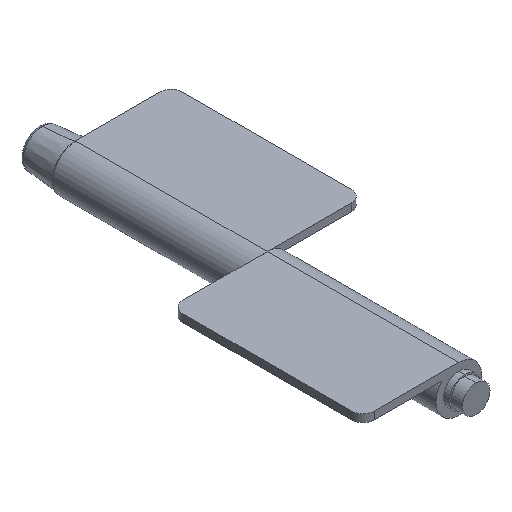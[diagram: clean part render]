
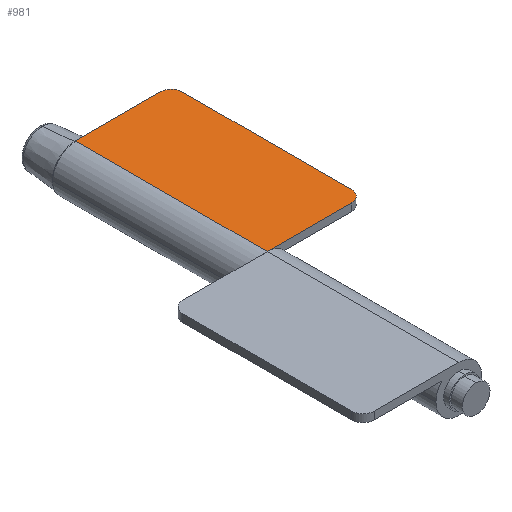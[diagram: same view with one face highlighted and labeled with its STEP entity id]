
A CAD part, isometric view. The second image highlights one B-rep face of the part: STEP entity #981.
In plain terms, the highlighted planar face has unit normal (0, 0, 1) as drawn and (0, -1, 0) by its records, which use the part's own axes.
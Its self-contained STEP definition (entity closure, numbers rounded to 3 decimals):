
#7 = VECTOR ( 'NONE', #20, 1000. ) ;
#20 = DIRECTION ( 'NONE',  ( 0., 0., -1. ) ) ;
#45 = CARTESIAN_POINT ( 'NONE',  ( 0., 0., 25. ) ) ;
#50 = AXIS2_PLACEMENT_3D ( 'NONE', #306, #438, #129 ) ;
#70 = PLANE ( 'NONE',  #911 ) ;
#86 = LINE ( 'NONE', #660, #7 ) ;
#122 = CARTESIAN_POINT ( 'NONE',  ( 22., 0., 25. ) ) ;
#129 = DIRECTION ( 'NONE',  ( 0., 0., 1. ) ) ;
#181 = DIRECTION ( 'NONE',  ( 0., -1., 0. ) ) ;
#195 = DIRECTION ( 'NONE',  ( 0., 1., 0. ) ) ;
#213 = AXIS2_PLACEMENT_3D ( 'NONE', #262, #181, #724 ) ;
#235 = VERTEX_POINT ( 'NONE', #417 ) ;
#247 = ORIENTED_EDGE ( 'NONE', *, *, #495, .T. ) ;
#251 = VECTOR ( 'NONE', #359, 1000. ) ;
#262 = CARTESIAN_POINT ( 'NONE',  ( 22., 0., -22. ) ) ;
#281 = LINE ( 'NONE', #595, #251 ) ;
#306 = CARTESIAN_POINT ( 'NONE',  ( 22., 0., 22. ) ) ;
#310 = EDGE_CURVE ( 'NONE', #378, #370, #281, .T. ) ;
#316 = ORIENTED_EDGE ( 'NONE', *, *, #761, .T. ) ;
#321 = VECTOR ( 'NONE', #999, 1000. ) ;
#346 = VERTEX_POINT ( 'NONE', #907 ) ;
#350 = EDGE_CURVE ( 'NONE', #346, #612, #498, .T. ) ;
#359 = DIRECTION ( 'NONE',  ( 1., 0., 0. ) ) ;
#370 = VERTEX_POINT ( 'NONE', #122 ) ;
#378 = VERTEX_POINT ( 'NONE', #45 ) ;
#387 = VECTOR ( 'NONE', #730, 1000. ) ;
#417 = CARTESIAN_POINT ( 'NONE',  ( 22., 0., -25. ) ) ;
#438 = DIRECTION ( 'NONE',  ( 0., -1., 0. ) ) ;
#457 = CARTESIAN_POINT ( 'NONE',  ( 25., 0., -22. ) ) ;
#462 = FACE_OUTER_BOUND ( 'NONE', #1005, .T. ) ;
#495 = EDGE_CURVE ( 'NONE', #346, #370, #679, .T. ) ;
#498 = LINE ( 'NONE', #829, #387 ) ;
#505 = EDGE_CURVE ( 'NONE', #993, #235, #680, .T. ) ;
#595 = CARTESIAN_POINT ( 'NONE',  ( 0., 0., 25. ) ) ;
#612 = VERTEX_POINT ( 'NONE', #457 ) ;
#660 = CARTESIAN_POINT ( 'NONE',  ( 0., 0., 25. ) ) ;
#679 = CIRCLE ( 'NONE', #50, 3. ) ;
#680 = LINE ( 'NONE', #1002, #321 ) ;
#687 = EDGE_CURVE ( 'NONE', #235, #612, #709, .T. ) ;
#690 = CARTESIAN_POINT ( 'NONE',  ( 0., 0., 25. ) ) ;
#709 = CIRCLE ( 'NONE', #213, 3. ) ;
#724 = DIRECTION ( 'NONE',  ( 0., 0., 1. ) ) ;
#730 = DIRECTION ( 'NONE',  ( 0., 0., -1. ) ) ;
#749 = CARTESIAN_POINT ( 'NONE',  ( 0., 0., -25. ) ) ;
#761 = EDGE_CURVE ( 'NONE', #378, #993, #86, .T. ) ;
#773 = DIRECTION ( 'NONE',  ( 0., 0., 1. ) ) ;
#795 = ORIENTED_EDGE ( 'NONE', *, *, #687, .T. ) ;
#820 = ORIENTED_EDGE ( 'NONE', *, *, #310, .F. ) ;
#824 = ORIENTED_EDGE ( 'NONE', *, *, #505, .T. ) ;
#829 = CARTESIAN_POINT ( 'NONE',  ( 25., 0., 25. ) ) ;
#907 = CARTESIAN_POINT ( 'NONE',  ( 25., 0., 22. ) ) ;
#911 = AXIS2_PLACEMENT_3D ( 'NONE', #690, #195, #773 ) ;
#981 = ADVANCED_FACE ( 'NONE', ( #462 ), #70, .F. ) ;
#993 = VERTEX_POINT ( 'NONE', #749 ) ;
#999 = DIRECTION ( 'NONE',  ( 1., 0., 0. ) ) ;
#1002 = CARTESIAN_POINT ( 'NONE',  ( 0., 0., -25. ) ) ;
#1005 = EDGE_LOOP ( 'NONE', ( #824, #795, #1019, #247, #820, #316 ) ) ;
#1019 = ORIENTED_EDGE ( 'NONE', *, *, #350, .F. ) ;
